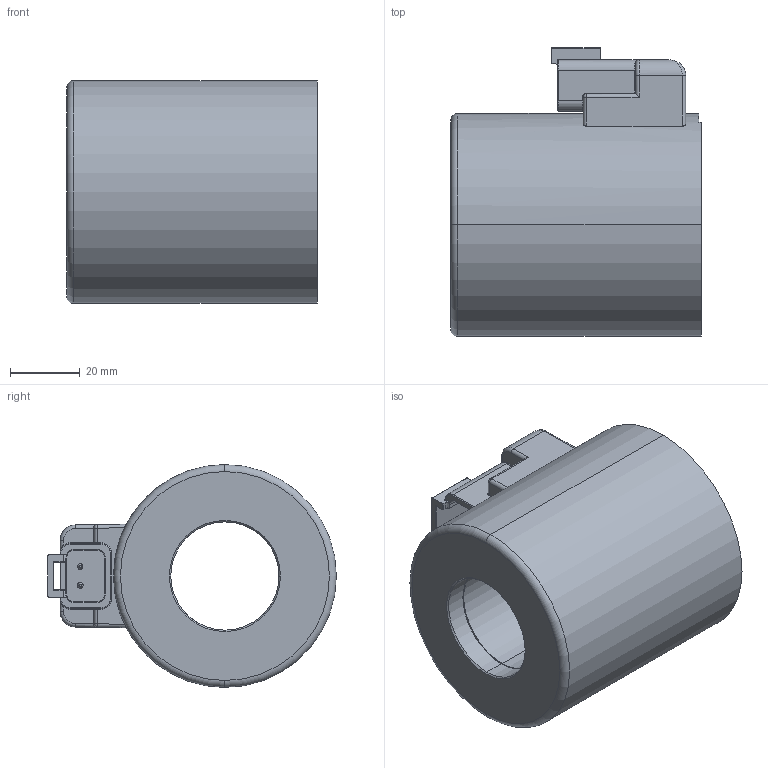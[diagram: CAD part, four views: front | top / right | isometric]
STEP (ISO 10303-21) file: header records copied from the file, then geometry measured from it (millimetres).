
FILE_DESCRIPTION (( 'STEP AP214' ), '1' );
FILE_NAME ('WG_64_31x72.STEP', '2015-02-12T14:50:15', ( '' ), ( '' ), 'SwSTEP 2.0', 'SolidWorks 2014', '' );
FILE_SCHEMA (( 'AUTOMOTIVE_DESIGN' ));
Length unit declared in the file: millimetre
Products named in the file (2): WG_64_31x72
Bounding box: 72 x 82.9 x 64 mm (x, y, z)
Volume: 187049.4 mm3; surface area: 32708.1 mm2
Topology: 4 solids, 5 shells, 205 faces, 483 edges, 276 vertices
Faces by surface type: cylinder 88, plane 47, torus 33, bspline 20, cone 12, sphere 5
Entity records: 8631 total; most frequent: CARTESIAN_POINT 1757, DIRECTION 988, ORIENTED_EDGE 944, EDGE_CURVE 472, AXIS2_PLACEMENT_3D 395, VERTEX_POINT 276, UNCERTAINTY_MEASURE_WITH_UNIT 211, MECHANICAL_DESIGN_GEOMETRIC_PRESENTATION_REPRESENTATION 210
